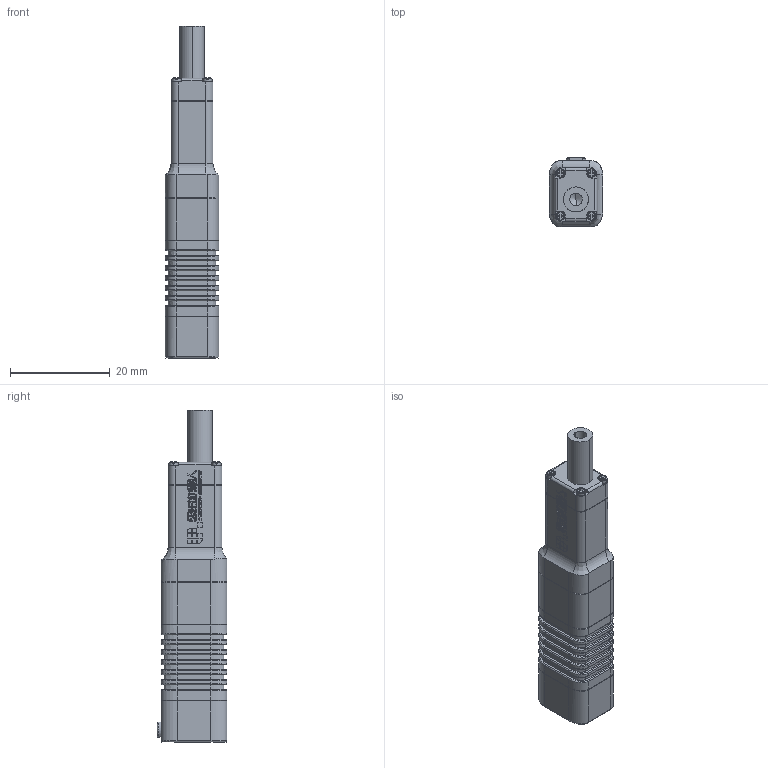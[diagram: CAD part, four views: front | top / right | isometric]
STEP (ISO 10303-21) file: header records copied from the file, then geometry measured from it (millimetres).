
FILE_DESCRIPTION (( 'STEP AP214' ), '1' );
FILE_NAME ('LA10-0x1D.STEP', '2022-12-06T09:38:40', ( '' ), ( '' ), '', '', '' );
FILE_SCHEMA (( 'AUTOMOTIVE_DESIGN' ));
Length unit declared in the file: millimetre
Products named in the file (3): exA820109-009芢裝俋褲_2; exA820109-015祥凄詩杶奪_2; LA10-0x1D
Assembly tree (2 placements, depth 2):
  LA10-0x1D
    exA820109-009芢裝俋褲_2
    exA820109-015祥凄詩杶奪_2
Bounding box: 10.8 x 14 x 66.5 mm (x, y, z)
Volume: 6382.4 mm3; surface area: 3953.1 mm2
Topology: 2 solids, 7 shells, 1662 faces, 4352 edges, 2819 vertices
Faces by surface type: plane 871, bspline 597, cylinder 161, cone 33
Entity records: 73420 total; most frequent: CARTESIAN_POINT 28637, ORIENTED_EDGE 8700, DIRECTION 5820, EDGE_CURVE 4350, VERTEX_POINT 2819, LINE 2796, VECTOR 2796, EDGE_LOOP 1795
